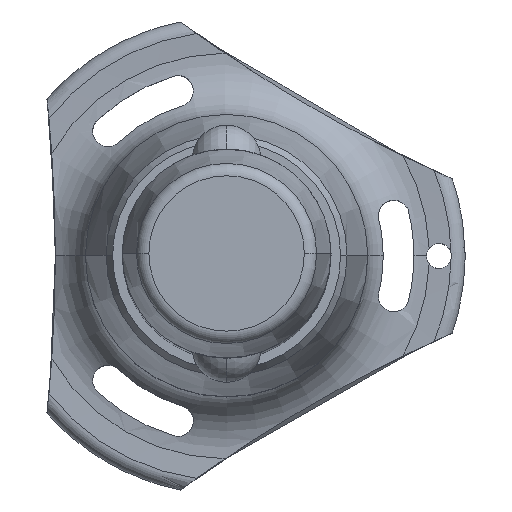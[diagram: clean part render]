
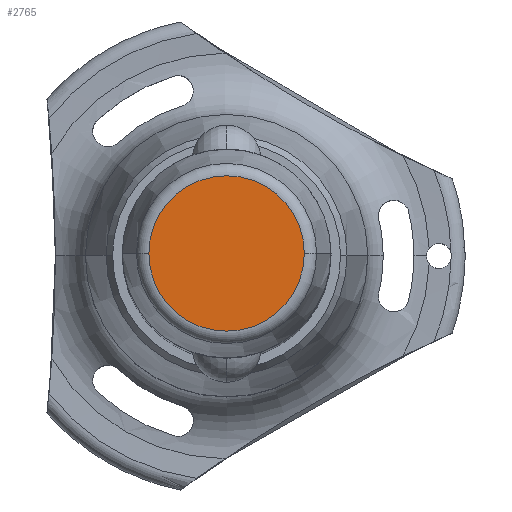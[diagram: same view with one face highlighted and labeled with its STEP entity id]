
A CAD part, top view. The second image highlights one B-rep face of the part: STEP entity #2765.
In plain terms, the highlighted planar face has unit normal (0, 0, 1).
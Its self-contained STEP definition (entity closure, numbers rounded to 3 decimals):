
#63 = CARTESIAN_POINT ( 'NONE',  ( 0., 0., 22. ) ) ;
#583 = CARTESIAN_POINT ( 'NONE',  ( 0., 0., 22. ) ) ;
#613 = AXIS2_PLACEMENT_3D ( 'NONE', #2343, #2575, #1851 ) ;
#725 = ORIENTED_EDGE ( 'NONE', *, *, #2203, .T. ) ;
#744 = DIRECTION ( 'NONE',  ( 0., 0., 1. ) ) ;
#838 = VERTEX_POINT ( 'NONE', #2419 ) ;
#1012 = FACE_OUTER_BOUND ( 'NONE', #2707, .T. ) ;
#1208 = DIRECTION ( 'NONE',  ( 1., 0., 0. ) ) ;
#1422 = AXIS2_PLACEMENT_3D ( 'NONE', #583, #1957, #1720 ) ;
#1518 = CIRCLE ( 'NONE', #1704, 9.302 ) ;
#1704 = AXIS2_PLACEMENT_3D ( 'NONE', #63, #744, #1208 ) ;
#1707 = CARTESIAN_POINT ( 'NONE',  ( 9.302, 0., 22. ) ) ;
#1720 = DIRECTION ( 'NONE',  ( 1., 0., 0. ) ) ;
#1847 = CIRCLE ( 'NONE', #613, 9.302 ) ;
#1851 = DIRECTION ( 'NONE',  ( 1., 0., 0. ) ) ;
#1957 = DIRECTION ( 'NONE',  ( 0., 0., 1. ) ) ;
#2167 = PLANE ( 'NONE',  #1422 ) ;
#2203 = EDGE_CURVE ( 'NONE', #838, #2843, #1847, .T. ) ;
#2235 = ORIENTED_EDGE ( 'NONE', *, *, #2729, .T. ) ;
#2343 = CARTESIAN_POINT ( 'NONE',  ( 0., 0., 22. ) ) ;
#2419 = CARTESIAN_POINT ( 'NONE',  ( -9.302, 0., 22. ) ) ;
#2575 = DIRECTION ( 'NONE',  ( 0., 0., 1. ) ) ;
#2707 = EDGE_LOOP ( 'NONE', ( #2235, #725 ) ) ;
#2729 = EDGE_CURVE ( 'NONE', #2843, #838, #1518, .T. ) ;
#2765 = ADVANCED_FACE ( 'NONE', ( #1012 ), #2167, .T. ) ;
#2843 = VERTEX_POINT ( 'NONE', #1707 ) ;
